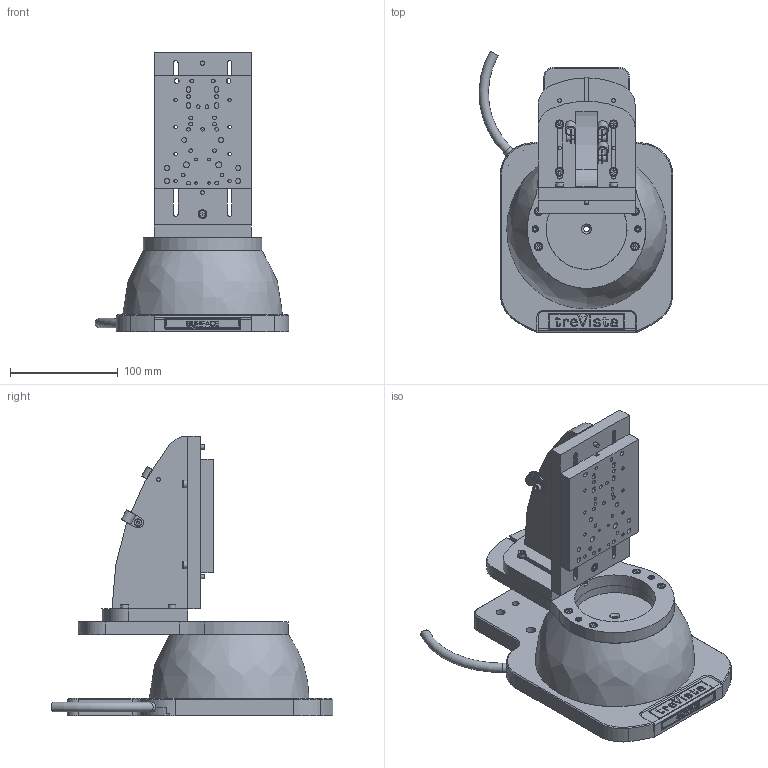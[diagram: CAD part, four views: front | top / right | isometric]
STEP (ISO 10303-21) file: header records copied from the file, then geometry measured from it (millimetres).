
FILE_DESCRIPTION(/* description */ ('trevista 20.4'),/* implementation_level */ '2;1');
FILE_NAME(/* name */ '\\sac-vision.com\daten\RedirectedFolders\ml\Desktop\Cognex Export trevista M\Baugruppen Jeremy Kaplan\trevista SURFACE 20.4.stp',/* time_stamp */ '2023-02-07T08:21:09+01:00',/* author */ ('ml'),/* organization */ (''),/* preprocessor_version */ 'ST-DEVELOPER v17.2',/* originating_system */ 'Autodesk Inventor 2019',/* authorisation */ '');
FILE_SCHEMA (('CONFIG_CONTROL_DESIGN'));
Products named in the file (23): 22033-020-40; 23033-001-40; platine; 23033-008-40; 23033-006-40-D001; ISO 10642 - M4 x  16; 22036-000-30; 23036-001-30; 23036-002-30; 23036-003-30; 23036-004-30; 032800099998ML; ISO 8735 - 6 x 24 - B; 23036-009-30; ISO 7092 - ST 4 - 140 HV; ISO 4762 - M4 x 20; ISO 8734 - 4 x 28 - A; ISO 4762 - M4 x 16; ISO 4762 - M4 x 12; 0323033004003d; ISO 4762 - M4 x 8; Kabel; Zugentlastung OBO 7903
Assembly tree (59 placements, depth 3):
  22033-020-40
    23033-001-40
    platine
    23033-008-40
    23033-006-40-D001
    ISO 10642 - M4 x  16  x4
    22036-000-30
      23036-001-30
      23036-002-30
      ISO 4762 - M4 x 16  x10
      23036-003-30
      ISO 8734 - 4 x 28 - A  x6
      23036-004-30
      ISO 4762 - M4 x 20  x8
      ISO 7092 - ST 4 - 140 HV  x8
      032800099998ML  x3
      ISO 8735 - 6 x 24 - B  x2
      23036-009-30
      ISO 4762 - M4 x 12  x3
    0323033004003d
    ISO 4762 - M4 x 8  x2
    Kabel
    Zugentlastung OBO 7903
Bounding box: 179.63 x 261.28 x 259 mm (x, y, z)
Volume: 1501495.5 mm3; surface area: 357697.7 mm2
Topology: 166 solids, 166 shells, 6779 faces, 19097 edges, 12757 vertices
Faces by surface type: plane 5969, cylinder 505, cone 168, bspline 110, torus 26, sphere 1
Full cylindrical faces by diameter (mm): 0.8 x12, 0.9 x2, 2.013 x8, 2.4 x4, 2.459 x6, 2.7 x8, 3.242 x38, 3.243 x2, 3.4 x19, 3.5 x2, 4 x45, 4.3 x10, 4.4 x6, 4.5 x24, 5.5 x2, 6 x10, 6.4 x1, 7 x23, 7.53 x4, 8 x20, 8.376 x4, 8.7 x1, 15 x4, 73 x1, 75 x3, 76 x1, 132.4 x1, 146 x2
Entity records: 212080 total; most frequent: CARTESIAN_POINT 38309, ORIENTED_EDGE 36172, DIRECTION 31853, EDGE_CURVE 18086, LINE 16471, VECTOR 16471, VERTEX_POINT 12080, AXIS2_PLACEMENT_3D 7691
